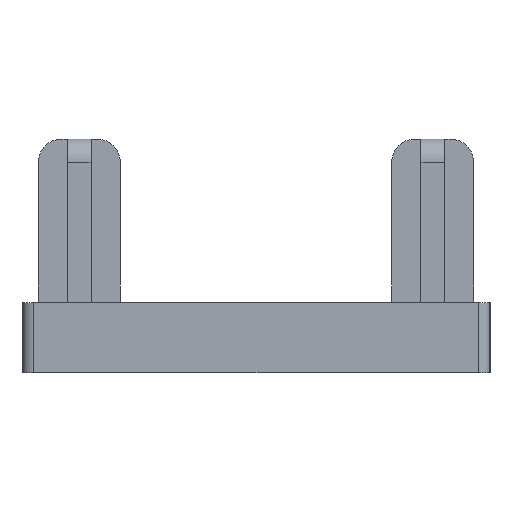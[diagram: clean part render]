
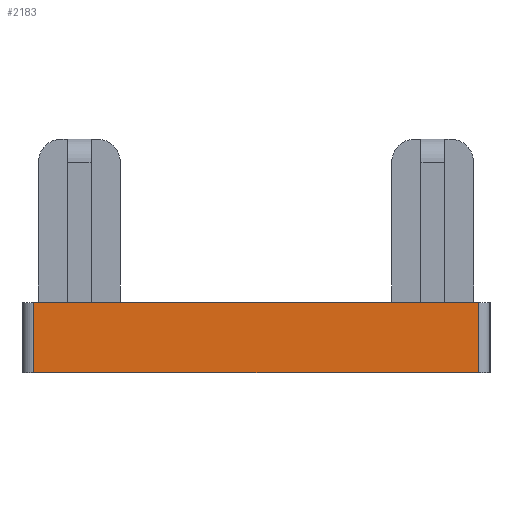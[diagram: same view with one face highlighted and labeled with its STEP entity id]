
A CAD part, left-side view. The second image highlights one B-rep face of the part: STEP entity #2183.
In plain terms, the highlighted planar face has unit normal (-1, 0, 0).
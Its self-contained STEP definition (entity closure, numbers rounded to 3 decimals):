
#201=PLANE('',#2326);
#284=FACE_OUTER_BOUND('',#392,.T.);
#392=EDGE_LOOP('',(#1611,#1612,#1613,#1614));
#496=LINE('',#3070,#740);
#500=LINE('',#3079,#744);
#529=LINE('',#3163,#773);
#530=LINE('',#3166,#774);
#740=VECTOR('',#2482,5.);
#744=VECTOR('',#2490,19.);
#773=VECTOR('',#2555,5.);
#774=VECTOR('',#2560,19.);
#1047=VERTEX_POINT('',#3063);
#1050=VERTEX_POINT('',#3068);
#1053=VERTEX_POINT('',#3078);
#1090=VERTEX_POINT('',#3162);
#1250=EDGE_CURVE('',#1050,#1047,#496,.T.);
#1254=EDGE_CURVE('',#1047,#1053,#500,.T.);
#1296=EDGE_CURVE('',#1053,#1090,#529,.T.);
#1298=EDGE_CURVE('',#1050,#1090,#530,.T.);
#1611=ORIENTED_EDGE('',*,*,#1250,.F.);
#1612=ORIENTED_EDGE('',*,*,#1298,.T.);
#1613=ORIENTED_EDGE('',*,*,#1296,.F.);
#1614=ORIENTED_EDGE('',*,*,#1254,.F.);
#2183=ADVANCED_FACE('',(#284),#201,.T.);
#2326=AXIS2_PLACEMENT_3D('',#3165,#2558,#2559);
#2482=DIRECTION('',(0.,0.,1.));
#2490=DIRECTION('',(0.,-1.,0.));
#2555=DIRECTION('',(0.,0.,-1.));
#2558=DIRECTION('center_axis',(-1.,0.,0.));
#2559=DIRECTION('ref_axis',(0.,-1.,0.));
#2560=DIRECTION('',(0.,-1.,0.));
#3063=CARTESIAN_POINT('',(0.406,19.693,3.));
#3068=CARTESIAN_POINT('',(0.406,19.693,0.));
#3070=CARTESIAN_POINT('',(0.406,19.693,0.));
#3078=CARTESIAN_POINT('',(0.406,0.693,3.));
#3079=CARTESIAN_POINT('',(0.406,20.193,3.));
#3162=CARTESIAN_POINT('',(0.406,0.693,0.));
#3163=CARTESIAN_POINT('',(0.406,0.693,0.));
#3165=CARTESIAN_POINT('Origin',(0.406,20.193,0.));
#3166=CARTESIAN_POINT('',(0.406,20.193,0.));
